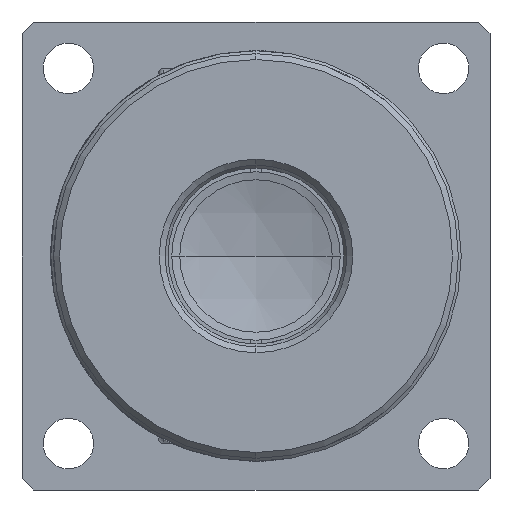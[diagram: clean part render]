
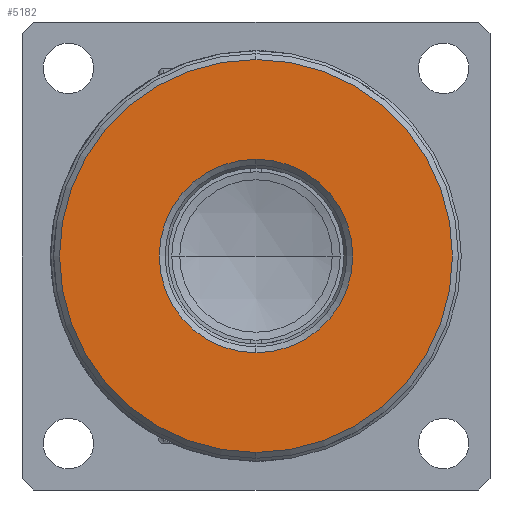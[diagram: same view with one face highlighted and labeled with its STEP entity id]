
A CAD part, left-side view. The second image highlights one B-rep face of the part: STEP entity #5182.
In plain terms, the highlighted planar face has unit normal (-1, 0, 0).
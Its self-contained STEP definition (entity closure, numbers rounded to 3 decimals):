
#176 = FACE_OUTER_BOUND ( 'NONE', #10128, .T. ) ;
#322 = CIRCLE ( 'NONE', #2506, 16.75 ) ;
#574 = DIRECTION ( 'NONE',  ( 0., 0., -1. ) ) ;
#1086 = ORIENTED_EDGE ( 'NONE', *, *, #9629, .T. ) ;
#1441 = CARTESIAN_POINT ( 'NONE',  ( 0., 0., 8.25 ) ) ;
#1451 = AXIS2_PLACEMENT_3D ( 'NONE', #2882, #8377, #3685 ) ;
#1898 = CARTESIAN_POINT ( 'NONE',  ( 0., 7.75, 0. ) ) ;
#1963 = VERTEX_POINT ( 'NONE', #7808 ) ;
#2161 = AXIS2_PLACEMENT_3D ( 'NONE', #3594, #9057, #4385 ) ;
#2506 = AXIS2_PLACEMENT_3D ( 'NONE', #9919, #5266, #574 ) ;
#2683 = DIRECTION ( 'NONE',  ( 0., 0., -1. ) ) ;
#2832 = CARTESIAN_POINT ( 'NONE',  ( 0., 0., -16.75 ) ) ;
#2882 = CARTESIAN_POINT ( 'NONE',  ( 0., 0., 0. ) ) ;
#3421 = CIRCLE ( 'NONE', #2161, 8.25 ) ;
#3594 = CARTESIAN_POINT ( 'NONE',  ( 0., 0., 0. ) ) ;
#3629 = CARTESIAN_POINT ( 'NONE',  ( 0., 0., -8.25 ) ) ;
#3685 = DIRECTION ( 'NONE',  ( 0., 0., -1. ) ) ;
#4304 = EDGE_LOOP ( 'NONE', ( #1086, #8090 ) ) ;
#4384 = VERTEX_POINT ( 'NONE', #2832 ) ;
#4385 = DIRECTION ( 'NONE',  ( 0., 0., -1. ) ) ;
#4518 = CARTESIAN_POINT ( 'NONE',  ( 0., 0., 0. ) ) ;
#5182 = ADVANCED_FACE ( 'NONE', ( #8507, #176 ), #5786, .F. ) ;
#5266 = DIRECTION ( 'NONE',  ( -1., 0., 0. ) ) ;
#5295 = VERTEX_POINT ( 'NONE', #3629 ) ;
#5306 = DIRECTION ( 'NONE',  ( 0., 0., -1. ) ) ;
#5322 = AXIS2_PLACEMENT_3D ( 'NONE', #1898, #7393, #2683 ) ;
#5786 = PLANE ( 'NONE',  #5322 ) ;
#6351 = CIRCLE ( 'NONE', #1451, 16.75 ) ;
#7198 = EDGE_CURVE ( 'NONE', #4384, #1963, #6351, .T. ) ;
#7202 = EDGE_CURVE ( 'NONE', #1963, #4384, #322, .T. ) ;
#7393 = DIRECTION ( 'NONE',  ( 1., 0., 0. ) ) ;
#7430 = EDGE_CURVE ( 'NONE', #5295, #8314, #9833, .T. ) ;
#7808 = CARTESIAN_POINT ( 'NONE',  ( 0., 0., 16.75 ) ) ;
#8090 = ORIENTED_EDGE ( 'NONE', *, *, #7430, .T. ) ;
#8194 = ORIENTED_EDGE ( 'NONE', *, *, #7202, .T. ) ;
#8314 = VERTEX_POINT ( 'NONE', #1441 ) ;
#8377 = DIRECTION ( 'NONE',  ( -1., 0., 0. ) ) ;
#8507 = FACE_BOUND ( 'NONE', #4304, .T. ) ;
#9016 = ORIENTED_EDGE ( 'NONE', *, *, #7198, .T. ) ;
#9057 = DIRECTION ( 'NONE',  ( 1., 0., 0. ) ) ;
#9629 = EDGE_CURVE ( 'NONE', #8314, #5295, #3421, .T. ) ;
#9819 = AXIS2_PLACEMENT_3D ( 'NONE', #4518, #9945, #5306 ) ;
#9833 = CIRCLE ( 'NONE', #9819, 8.25 ) ;
#9919 = CARTESIAN_POINT ( 'NONE',  ( 0., 0., 0. ) ) ;
#9945 = DIRECTION ( 'NONE',  ( 1., 0., 0. ) ) ;
#10128 = EDGE_LOOP ( 'NONE', ( #9016, #8194 ) ) ;
